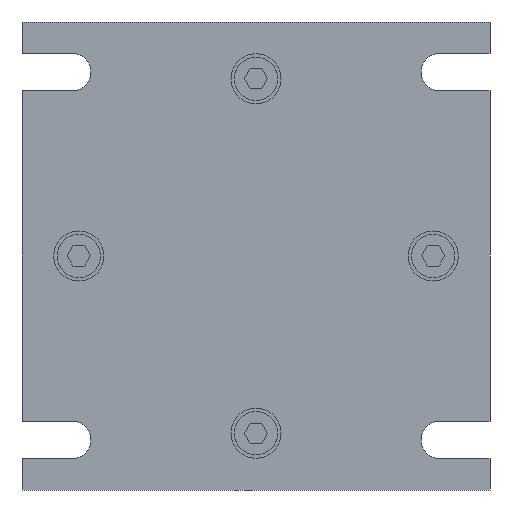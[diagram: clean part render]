
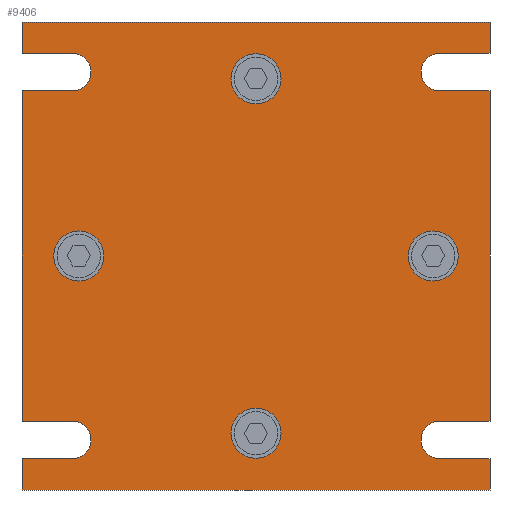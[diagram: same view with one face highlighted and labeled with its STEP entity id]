
A CAD part, front view. The second image highlights one B-rep face of the part: STEP entity #9406.
In plain terms, the highlighted planar face has unit normal (0, -1, 0).
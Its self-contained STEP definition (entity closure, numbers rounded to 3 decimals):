
#8751=CARTESIAN_POINT('',(0.,-12.,53.));
#8752=DIRECTION('',(0.,-1.,0.));
#8753=DIRECTION('',(-1.,0.,0.));
#8754=AXIS2_PLACEMENT_3D('',#8751,#8752,#8753);
#8756=CARTESIAN_POINT('',(0.,-12.,53.));
#8757=DIRECTION('',(0.,-1.,0.));
#8758=DIRECTION('',(1.,0.,0.));
#8759=AXIS2_PLACEMENT_3D('',#8756,#8757,#8758);
#8761=CARTESIAN_POINT('',(53.,-12.,0.));
#8762=DIRECTION('',(0.,-1.,0.));
#8763=DIRECTION('',(0.,0.,1.));
#8764=AXIS2_PLACEMENT_3D('',#8761,#8762,#8763);
#8766=CARTESIAN_POINT('',(53.,-12.,0.));
#8767=DIRECTION('',(0.,-1.,0.));
#8768=DIRECTION('',(0.,0.,-1.));
#8769=AXIS2_PLACEMENT_3D('',#8766,#8767,#8768);
#8771=CARTESIAN_POINT('',(0.,-12.,-53.));
#8772=DIRECTION('',(0.,-1.,0.));
#8773=DIRECTION('',(1.,0.,0.));
#8774=AXIS2_PLACEMENT_3D('',#8771,#8772,#8773);
#8776=CARTESIAN_POINT('',(0.,-12.,-53.));
#8777=DIRECTION('',(0.,-1.,0.));
#8778=DIRECTION('',(-1.,0.,0.));
#8779=AXIS2_PLACEMENT_3D('',#8776,#8777,#8778);
#8781=CARTESIAN_POINT('',(-53.,-12.,0.));
#8782=DIRECTION('',(0.,-1.,0.));
#8783=DIRECTION('',(0.,0.,-1.));
#8784=AXIS2_PLACEMENT_3D('',#8781,#8782,#8783);
#8786=CARTESIAN_POINT('',(-53.,-12.,0.));
#8787=DIRECTION('',(0.,-1.,0.));
#8788=DIRECTION('',(0.,0.,1.));
#8789=AXIS2_PLACEMENT_3D('',#8786,#8787,#8788);
#8791=DIRECTION('',(-1.,0.,0.));
#8792=VECTOR('',#8791,15.);
#8793=CARTESIAN_POINT('',(70.,-12.,60.6));
#8794=LINE('',#8793,#8792);
#8795=DIRECTION('',(-1.,0.,0.));
#8796=VECTOR('',#8795,15.);
#8797=CARTESIAN_POINT('',(70.,-12.,49.4));
#8798=LINE('',#8797,#8796);
#8799=DIRECTION('',(0.,0.,-1.));
#8800=VECTOR('',#8799,98.8);
#8801=CARTESIAN_POINT('',(70.,-12.,49.4));
#8802=LINE('',#8801,#8800);
#8803=DIRECTION('',(-1.,0.,0.));
#8804=VECTOR('',#8803,15.);
#8805=CARTESIAN_POINT('',(70.,-12.,-49.4));
#8806=LINE('',#8805,#8804);
#8807=DIRECTION('',(-1.,0.,0.));
#8808=VECTOR('',#8807,15.);
#8809=CARTESIAN_POINT('',(70.,-12.,-60.6));
#8810=LINE('',#8809,#8808);
#8811=DIRECTION('',(0.,0.,-1.));
#8812=VECTOR('',#8811,9.4);
#8813=CARTESIAN_POINT('',(70.,-12.,-60.6));
#8814=LINE('',#8813,#8812);
#8815=DIRECTION('',(-1.,0.,0.));
#8816=VECTOR('',#8815,140.);
#8817=CARTESIAN_POINT('',(70.,-12.,-70.));
#8818=LINE('',#8817,#8816);
#8819=DIRECTION('',(0.,0.,1.));
#8820=VECTOR('',#8819,9.4);
#8821=CARTESIAN_POINT('',(-70.,-12.,-70.));
#8822=LINE('',#8821,#8820);
#8823=DIRECTION('',(1.,0.,0.));
#8824=VECTOR('',#8823,15.);
#8825=CARTESIAN_POINT('',(-70.,-12.,-60.6));
#8826=LINE('',#8825,#8824);
#8827=DIRECTION('',(1.,0.,0.));
#8828=VECTOR('',#8827,15.);
#8829=CARTESIAN_POINT('',(-70.,-12.,-49.4));
#8830=LINE('',#8829,#8828);
#8831=DIRECTION('',(0.,0.,1.));
#8832=VECTOR('',#8831,98.8);
#8833=CARTESIAN_POINT('',(-70.,-12.,-49.4));
#8834=LINE('',#8833,#8832);
#8835=DIRECTION('',(1.,0.,0.));
#8836=VECTOR('',#8835,15.);
#8837=CARTESIAN_POINT('',(-70.,-12.,49.4));
#8838=LINE('',#8837,#8836);
#8839=DIRECTION('',(1.,0.,0.));
#8840=VECTOR('',#8839,15.);
#8841=CARTESIAN_POINT('',(-70.,-12.,60.6));
#8842=LINE('',#8841,#8840);
#8843=DIRECTION('',(0.,0.,1.));
#8844=VECTOR('',#8843,9.4);
#8845=CARTESIAN_POINT('',(-70.,-12.,60.6));
#8846=LINE('',#8845,#8844);
#8847=DIRECTION('',(1.,0.,0.));
#8848=VECTOR('',#8847,140.);
#8849=CARTESIAN_POINT('',(-70.,-12.,70.));
#8850=LINE('',#8849,#8848);
#8851=DIRECTION('',(0.,0.,-1.));
#8852=VECTOR('',#8851,9.4);
#8853=CARTESIAN_POINT('',(70.,-12.,70.));
#8854=LINE('',#8853,#8852);
#9115=CARTESIAN_POINT('',(-55.,-12.,55.));
#9116=DIRECTION('',(0.,1.,0.));
#9117=DIRECTION('',(0.,0.,1.));
#9118=AXIS2_PLACEMENT_3D('',#9115,#9116,#9117);
#9133=CARTESIAN_POINT('',(-55.,-12.,-55.));
#9134=DIRECTION('',(0.,1.,0.));
#9135=DIRECTION('',(0.,0.,1.));
#9136=AXIS2_PLACEMENT_3D('',#9133,#9134,#9135);
#9164=CARTESIAN_POINT('',(55.,-12.,-55.));
#9165=DIRECTION('',(0.,1.,0.));
#9166=DIRECTION('',(0.,0.,-1.));
#9167=AXIS2_PLACEMENT_3D('',#9164,#9165,#9166);
#9182=CARTESIAN_POINT('',(55.,-12.,55.));
#9183=DIRECTION('',(0.,1.,0.));
#9184=DIRECTION('',(0.,0.,-1.));
#9185=AXIS2_PLACEMENT_3D('',#9182,#9183,#9184);
#9191=CARTESIAN_POINT('',(-70.,-12.,70.));
#9192=CARTESIAN_POINT('',(70.,-12.,70.));
#9193=VERTEX_POINT('',#9191);
#9194=VERTEX_POINT('',#9192);
#9195=CARTESIAN_POINT('',(70.,-12.,-70.));
#9196=CARTESIAN_POINT('',(-70.,-12.,-70.));
#9197=VERTEX_POINT('',#9195);
#9198=VERTEX_POINT('',#9196);
#9215=CARTESIAN_POINT('',(-7.5,-12.,53.));
#9216=CARTESIAN_POINT('',(7.5,-12.,53.));
#9217=VERTEX_POINT('',#9215);
#9218=VERTEX_POINT('',#9216);
#9231=CARTESIAN_POINT('',(53.,-12.,7.5));
#9232=CARTESIAN_POINT('',(53.,-12.,-7.5));
#9233=VERTEX_POINT('',#9231);
#9234=VERTEX_POINT('',#9232);
#9247=CARTESIAN_POINT('',(7.5,-12.,-53.));
#9248=CARTESIAN_POINT('',(-7.5,-12.,-53.));
#9249=VERTEX_POINT('',#9247);
#9250=VERTEX_POINT('',#9248);
#9263=CARTESIAN_POINT('',(-53.,-12.,-7.5));
#9264=CARTESIAN_POINT('',(-53.,-12.,7.5));
#9265=VERTEX_POINT('',#9263);
#9266=VERTEX_POINT('',#9264);
#9271=CARTESIAN_POINT('',(70.,-12.,60.6));
#9272=CARTESIAN_POINT('',(55.,-12.,60.6));
#9273=VERTEX_POINT('',#9271);
#9274=VERTEX_POINT('',#9272);
#9275=CARTESIAN_POINT('',(70.,-12.,49.4));
#9276=CARTESIAN_POINT('',(55.,-12.,49.4));
#9277=VERTEX_POINT('',#9275);
#9278=VERTEX_POINT('',#9276);
#9279=CARTESIAN_POINT('',(-70.,-12.,49.4));
#9280=CARTESIAN_POINT('',(-55.,-12.,49.4));
#9281=VERTEX_POINT('',#9279);
#9282=VERTEX_POINT('',#9280);
#9283=CARTESIAN_POINT('',(-70.,-12.,60.6));
#9284=CARTESIAN_POINT('',(-55.,-12.,60.6));
#9285=VERTEX_POINT('',#9283);
#9286=VERTEX_POINT('',#9284);
#9287=CARTESIAN_POINT('',(-70.,-12.,-60.6));
#9288=CARTESIAN_POINT('',(-55.,-12.,-60.6));
#9289=VERTEX_POINT('',#9287);
#9290=VERTEX_POINT('',#9288);
#9291=CARTESIAN_POINT('',(-70.,-12.,-49.4));
#9292=CARTESIAN_POINT('',(-55.,-12.,-49.4));
#9293=VERTEX_POINT('',#9291);
#9294=VERTEX_POINT('',#9292);
#9295=CARTESIAN_POINT('',(70.,-12.,-49.4));
#9296=CARTESIAN_POINT('',(55.,-12.,-49.4));
#9297=VERTEX_POINT('',#9295);
#9298=VERTEX_POINT('',#9296);
#9299=CARTESIAN_POINT('',(70.,-12.,-60.6));
#9300=CARTESIAN_POINT('',(55.,-12.,-60.6));
#9301=VERTEX_POINT('',#9299);
#9302=VERTEX_POINT('',#9300);
#9335=CARTESIAN_POINT('',(0.,-12.,0.));
#9336=DIRECTION('',(0.,1.,0.));
#9337=DIRECTION('',(1.,0.,0.));
#9338=AXIS2_PLACEMENT_3D('',#9335,#9336,#9337);
#9339=PLANE('',#9338);
#9341=ORIENTED_EDGE('',*,*,#9340,.T.);
#9343=ORIENTED_EDGE('',*,*,#9342,.F.);
#9345=ORIENTED_EDGE('',*,*,#9344,.F.);
#9347=ORIENTED_EDGE('',*,*,#9346,.T.);
#9349=ORIENTED_EDGE('',*,*,#9348,.T.);
#9351=ORIENTED_EDGE('',*,*,#9350,.F.);
#9353=ORIENTED_EDGE('',*,*,#9352,.F.);
#9355=ORIENTED_EDGE('',*,*,#9354,.T.);
#9357=ORIENTED_EDGE('',*,*,#9356,.T.);
#9359=ORIENTED_EDGE('',*,*,#9358,.T.);
#9361=ORIENTED_EDGE('',*,*,#9360,.T.);
#9363=ORIENTED_EDGE('',*,*,#9362,.F.);
#9365=ORIENTED_EDGE('',*,*,#9364,.F.);
#9367=ORIENTED_EDGE('',*,*,#9366,.T.);
#9369=ORIENTED_EDGE('',*,*,#9368,.T.);
#9371=ORIENTED_EDGE('',*,*,#9370,.F.);
#9373=ORIENTED_EDGE('',*,*,#9372,.F.);
#9375=ORIENTED_EDGE('',*,*,#9374,.T.);
#9377=ORIENTED_EDGE('',*,*,#9376,.T.);
#9379=ORIENTED_EDGE('',*,*,#9378,.T.);
#9380=EDGE_LOOP('',(#9341,#9343,#9345,#9347,#9349,#9351,#9353,#9355,#9357,#9359,
#9361,#9363,#9365,#9367,#9369,#9371,#9373,#9375,#9377,#9379));
#9381=FACE_OUTER_BOUND('',#9380,.F.);
#9383=ORIENTED_EDGE('',*,*,#9382,.T.);
#9385=ORIENTED_EDGE('',*,*,#9384,.T.);
#9386=EDGE_LOOP('',(#9383,#9385));
#9387=FACE_BOUND('',#9386,.F.);
#9389=ORIENTED_EDGE('',*,*,#9388,.T.);
#9391=ORIENTED_EDGE('',*,*,#9390,.T.);
#9392=EDGE_LOOP('',(#9389,#9391));
#9393=FACE_BOUND('',#9392,.F.);
#9395=ORIENTED_EDGE('',*,*,#9394,.T.);
#9397=ORIENTED_EDGE('',*,*,#9396,.T.);
#9398=EDGE_LOOP('',(#9395,#9397));
#9399=FACE_BOUND('',#9398,.F.);
#9401=ORIENTED_EDGE('',*,*,#9400,.T.);
#9403=ORIENTED_EDGE('',*,*,#9402,.T.);
#9404=EDGE_LOOP('',(#9401,#9403));
#9405=FACE_BOUND('',#9404,.F.);
#9406=ADVANCED_FACE('',(#9381,#9387,#9393,#9399,#9405),#9339,.F.);
#8755=CIRCLE('',#8754,7.5);
#8760=CIRCLE('',#8759,7.5);
#8765=CIRCLE('',#8764,7.5);
#8770=CIRCLE('',#8769,7.5);
#8775=CIRCLE('',#8774,7.5);
#8780=CIRCLE('',#8779,7.5);
#8785=CIRCLE('',#8784,7.5);
#8790=CIRCLE('',#8789,7.5);
#9119=CIRCLE('',#9118,5.6);
#9137=CIRCLE('',#9136,5.6);
#9168=CIRCLE('',#9167,5.6);
#9186=CIRCLE('',#9185,5.6);
#9340=EDGE_CURVE('',#9273,#9274,#8794,.T.);
#9342=EDGE_CURVE('',#9278,#9274,#9186,.T.);
#9344=EDGE_CURVE('',#9277,#9278,#8798,.T.);
#9346=EDGE_CURVE('',#9277,#9297,#8802,.T.);
#9348=EDGE_CURVE('',#9297,#9298,#8806,.T.);
#9350=EDGE_CURVE('',#9302,#9298,#9168,.T.);
#9352=EDGE_CURVE('',#9301,#9302,#8810,.T.);
#9354=EDGE_CURVE('',#9301,#9197,#8814,.T.);
#9356=EDGE_CURVE('',#9197,#9198,#8818,.T.);
#9358=EDGE_CURVE('',#9198,#9289,#8822,.T.);
#9360=EDGE_CURVE('',#9289,#9290,#8826,.T.);
#9362=EDGE_CURVE('',#9294,#9290,#9137,.T.);
#9364=EDGE_CURVE('',#9293,#9294,#8830,.T.);
#9366=EDGE_CURVE('',#9293,#9281,#8834,.T.);
#9368=EDGE_CURVE('',#9281,#9282,#8838,.T.);
#9370=EDGE_CURVE('',#9286,#9282,#9119,.T.);
#9372=EDGE_CURVE('',#9285,#9286,#8842,.T.);
#9374=EDGE_CURVE('',#9285,#9193,#8846,.T.);
#9376=EDGE_CURVE('',#9193,#9194,#8850,.T.);
#9378=EDGE_CURVE('',#9194,#9273,#8854,.T.);
#9382=EDGE_CURVE('',#9233,#9234,#8765,.T.);
#9384=EDGE_CURVE('',#9234,#9233,#8770,.T.);
#9388=EDGE_CURVE('',#9249,#9250,#8775,.T.);
#9390=EDGE_CURVE('',#9250,#9249,#8780,.T.);
#9394=EDGE_CURVE('',#9265,#9266,#8785,.T.);
#9396=EDGE_CURVE('',#9266,#9265,#8790,.T.);
#9400=EDGE_CURVE('',#9217,#9218,#8755,.T.);
#9402=EDGE_CURVE('',#9218,#9217,#8760,.T.);
